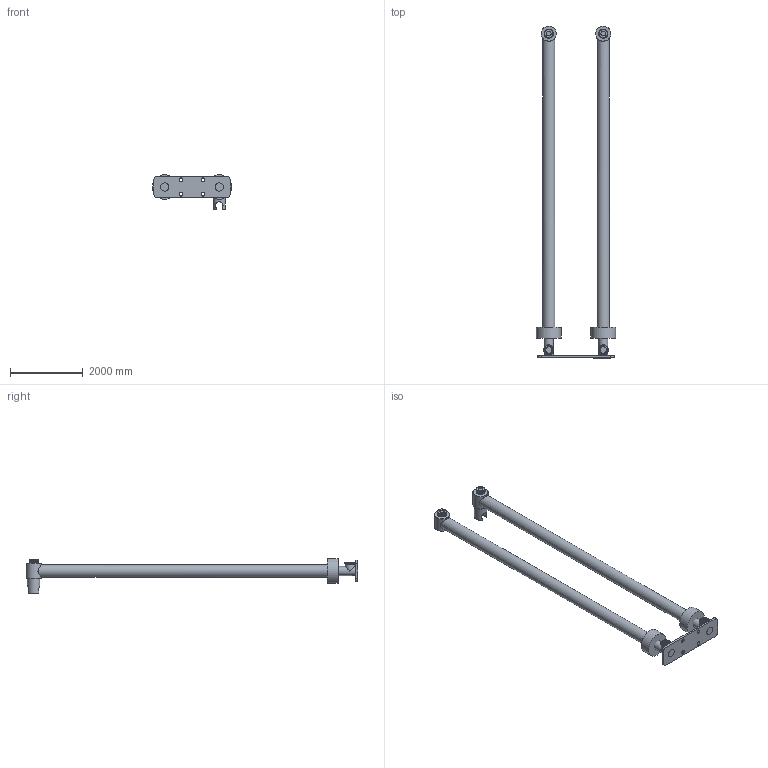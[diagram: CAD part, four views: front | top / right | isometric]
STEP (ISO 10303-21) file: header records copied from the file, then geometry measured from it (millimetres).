
FILE_DESCRIPTION(/* description */ (''),/* implementation_level */ '2;1');
FILE_NAME(/* name */ 'c:\worker\convert-fusion-r09\tmp\job-1\10\output\files\b0d7cc74-fada-43fa-afc8-4f05971ed684\8b2f76db-0d88-44e5-b42f-d9dfc3bf18b6.stp',/* time_stamp */ '2019-12-14T15:06:10+00:00',/* author */ (''),/* organization */ (''),/* preprocessor_version */ 'ST-DEVELOPER v18',/* originating_system */ 'Autodesk Translation Framework v8.12.0.6',/* authorisation */ '');
FILE_SCHEMA (('AUTOMOTIVE_DESIGN { 1 0 10303 214 3 1 1 }'));
Products named in the file (1): 8819
Bounding box: 2179.98 x 9140 x 954.99 mm (x, y, z)
Volume: 1992731659.3 mm3; surface area: 28267701.6 mm2
Topology: 16 solids, 16 shells, 210 faces, 544 edges, 373 vertices
Faces by surface type: cylinder 122, plane 50, torus 15, bspline 12, cone 11
Full cylindrical faces by diameter (mm): 100 x4, 130 x7, 181.84 x24, 190.815 x28, 230 x2, 235 x2, 240 x2, 240.33 x12, 249.545 x8, 250 x4, 280 x2, 340 x3, 420 x2, 680 x2
Entity records: 33616 total; most frequent: CARTESIAN_POINT 28600, ORIENTED_EDGE 1088, DIRECTION 952, EDGE_CURVE 544, AXIS2_PLACEMENT_3D 405, VERTEX_POINT 373, EDGE_LOOP 233, FACE_OUTER_BOUND 210
